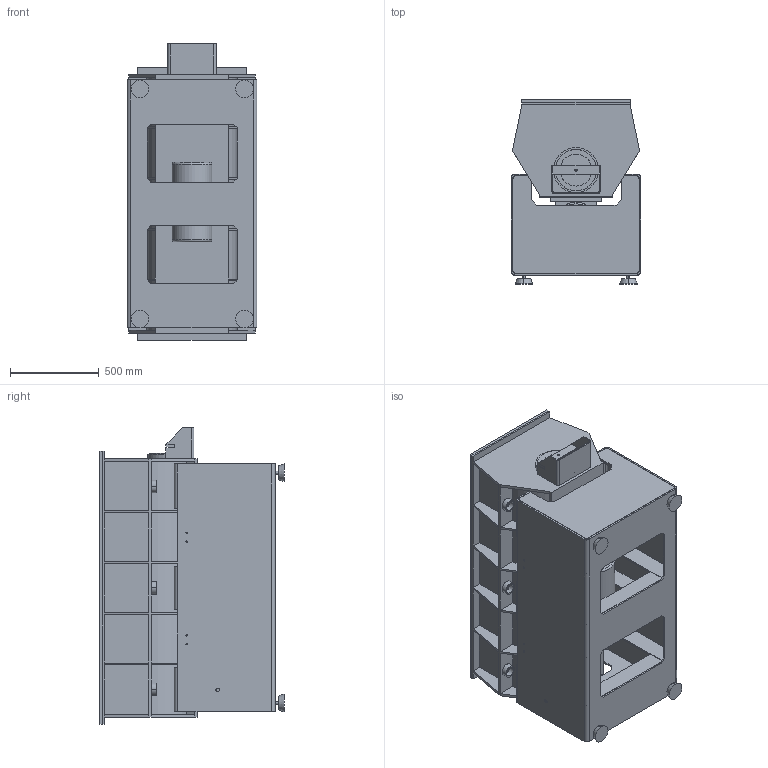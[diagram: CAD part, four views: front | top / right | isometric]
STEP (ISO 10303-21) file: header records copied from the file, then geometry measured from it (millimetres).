
FILE_DESCRIPTION (( 'STEP AP203' ), '1' );
FILE_NAME ('tube.STEP', '2013-01-28T23:37:26', ( '' ), ( '' ), 'SwSTEP 2.0', 'SolidWorks 2013', '' );
FILE_SCHEMA (( 'CONFIG_CONTROL_DESIGN' ));
Length unit declared in the file: millimetre
Products named in the file (1): tube
Bounding box: 732 x 1040 x 1676 mm (x, y, z)
Volume: 138585568.7 mm3; surface area: 22108954.4 mm2
Topology: 30 solids, 32 shells, 591 faces, 1350 edges, 844 vertices
Faces by surface type: plane 436, cylinder 143, cone 8, torus 4
Entity records: 16475 total; most frequent: CARTESIAN_POINT 2834, DIRECTION 2830, ORIENTED_EDGE 2700, EDGE_CURVE 1350, VECTOR 1022, LINE 1022, AXIS2_PLACEMENT_3D 904, VERTEX_POINT 844
